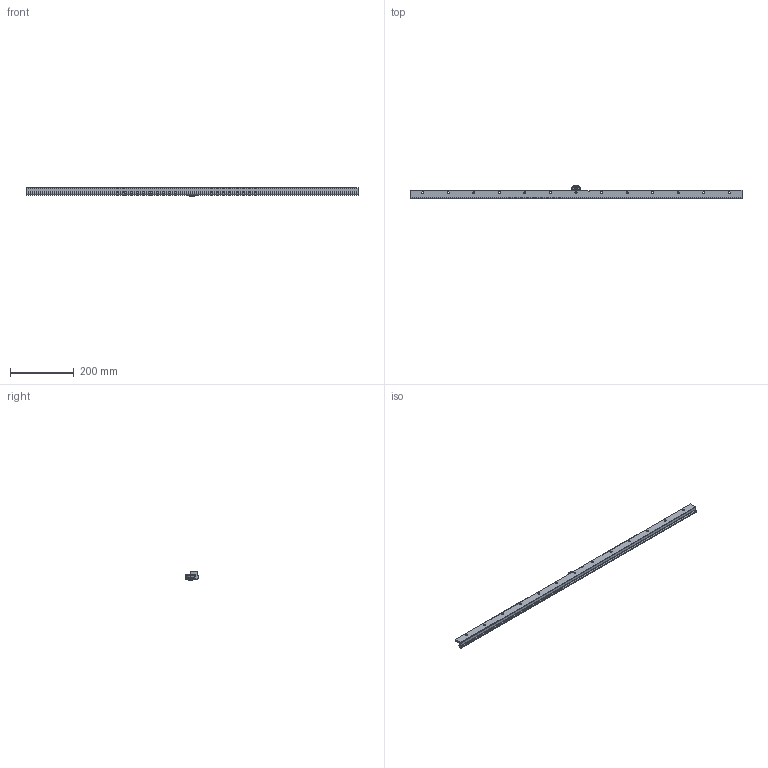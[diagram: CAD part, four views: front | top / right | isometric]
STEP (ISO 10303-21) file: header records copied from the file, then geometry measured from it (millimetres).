
FILE_DESCRIPTION (( 'STEP AP214' ), '1' );
FILE_NAME ('FXRG43-1040 (RNVG43-UP).STEP', '2021-11-18T14:04:07', ( '' ), ( '' ), 'SwSTEP 2.0', 'SolidWorks 2021', '' );
FILE_SCHEMA (( 'AUTOMOTIVE_DESIGN' ));
Length unit declared in the file: millimetre
Products named in the file (4): FXRG43-1040 (RNVG43-UP).stp; _FXRG 1040-RNVG43 UP.stp; FXRG43-1040 (RNVG43-UP); _RNVG43(15_M8).stp
Assembly tree (3 placements, depth 3):
  FXRG43-1040 (RNVG43-UP)
    FXRG43-1040 (RNVG43-UP).stp
      _FXRG 1040-RNVG43 UP.stp
      _RNVG43(15_M8).stp
Bounding box: 1040 x 42.04 x 25.5 mm (x, y, z)
Volume: 332741.9 mm3; surface area: 103001.3 mm2
Topology: 2 solids, 2 shells, 163 faces, 378 edges, 238 vertices
Faces by surface type: cylinder 78, plane 41, cone 40, torus 4
Entity records: 4874 total; most frequent: DIRECTION 924, CARTESIAN_POINT 786, ORIENTED_EDGE 756, EDGE_CURVE 378, AXIS2_PLACEMENT_3D 376, VERTEX_POINT 238, EDGE_LOOP 210, CIRCLE 206
